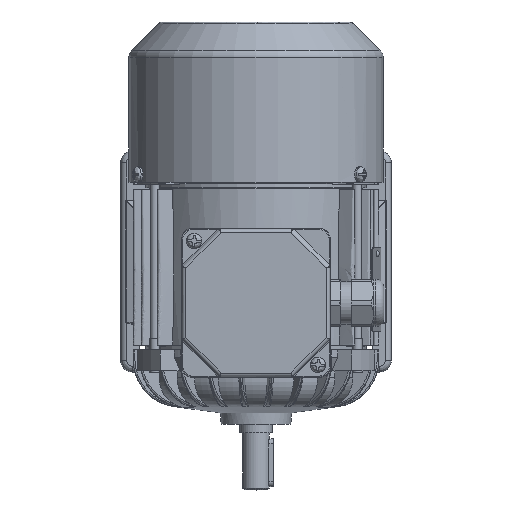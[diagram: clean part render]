
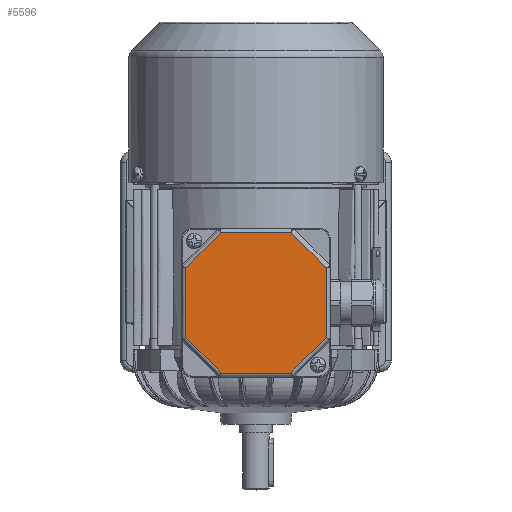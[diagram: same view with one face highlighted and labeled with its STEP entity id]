
A CAD part, top view. The second image highlights one B-rep face of the part: STEP entity #5596.
In plain terms, the highlighted planar face has unit normal (0, 0, 1).
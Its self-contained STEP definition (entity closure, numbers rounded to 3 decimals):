
#5596 = ADVANCED_FACE( '', ( #12681 ), #12682, .T. );
#12681 = FACE_OUTER_BOUND( '', #40515, .T. );
#12682 = PLANE( '', #40516 );
#40515 = EDGE_LOOP( '', ( #94751, #94752, #94753, #94754, #94755, #94756, #94757, #94758 ) );
#40516 = AXIS2_PLACEMENT_3D( '', #94759, #94760, #94761 );
#94751 = ORIENTED_EDGE( '', *, *, #112946, .T. );
#94752 = ORIENTED_EDGE( '', *, *, #115196, .T. );
#94753 = ORIENTED_EDGE( '', *, *, #113803, .T. );
#94754 = ORIENTED_EDGE( '', *, *, #116177, .T. );
#94755 = ORIENTED_EDGE( '', *, *, #111493, .T. );
#94756 = ORIENTED_EDGE( '', *, *, #114422, .T. );
#94757 = ORIENTED_EDGE( '', *, *, #111247, .T. );
#94758 = ORIENTED_EDGE( '', *, *, #116178, .T. );
#94759 = CARTESIAN_POINT( '', ( -39., 39., 12. ) );
#94760 = DIRECTION( '', ( 0., 0., 1. ) );
#94761 = DIRECTION( '', ( 1., 0., 0. ) );
#111247 = EDGE_CURVE( '', #121720, #121721, #121722, .F. );
#111493 = EDGE_CURVE( '', #122174, #122175, #122176, .F. );
#112946 = EDGE_CURVE( '', #124718, #123448, #124719, .F. );
#113803 = EDGE_CURVE( '', #123123, #121496, #126145, .F. );
#114422 = EDGE_CURVE( '', #122175, #121720, #127149, .T. );
#115196 = EDGE_CURVE( '', #123448, #123123, #128377, .T. );
#116177 = EDGE_CURVE( '', #121496, #122174, #129875, .T. );
#116178 = EDGE_CURVE( '', #121721, #124718, #129876, .T. );
#121496 = VERTEX_POINT( '', #136644 );
#121720 = VERTEX_POINT( '', #137558 );
#121721 = VERTEX_POINT( '', #137559 );
#121722 = LINE( '', #137560, #137561 );
#122174 = VERTEX_POINT( '', #140670 );
#122175 = VERTEX_POINT( '', #140671 );
#122176 = LINE( '', #140672, #140673 );
#123123 = VERTEX_POINT( '', #144229 );
#123448 = VERTEX_POINT( '', #145892 );
#124718 = VERTEX_POINT( '', #151364 );
#124719 = LINE( '', #151365, #151366 );
#126145 = LINE( '', #156802, #156803 );
#127149 = LINE( '', #160777, #160778 );
#128377 = LINE( '', #164734, #164735 );
#129875 = LINE( '', #171611, #171612 );
#129876 = LINE( '', #171613, #171614 );
#136644 = CARTESIAN_POINT( '', ( -18.255, 36.825, 12. ) );
#137558 = CARTESIAN_POINT( '', ( -18.255, -36.825, 12. ) );
#137559 = CARTESIAN_POINT( '', ( 18.255, -36.825, 12. ) );
#137560 = CARTESIAN_POINT( '', ( 19.069, -36.825, 12. ) );
#137561 = VECTOR( '', #198892, 1000. );
#140670 = CARTESIAN_POINT( '', ( -36.825, 18.255, 12. ) );
#140671 = CARTESIAN_POINT( '', ( -36.825, -18.255, 12. ) );
#140672 = CARTESIAN_POINT( '', ( -36.825, -19.069, 12. ) );
#140673 = VECTOR( '', #199143, 1000. );
#144229 = CARTESIAN_POINT( '', ( 18.255, 36.825, 12. ) );
#145892 = CARTESIAN_POINT( '', ( 36.825, 18.255, 12. ) );
#151364 = CARTESIAN_POINT( '', ( 36.825, -18.255, 12. ) );
#151365 = CARTESIAN_POINT( '', ( 36.825, 19.069, 12. ) );
#151366 = VECTOR( '', #200714, 1000. );
#156802 = CARTESIAN_POINT( '', ( -19.069, 36.825, 12. ) );
#156803 = VECTOR( '', #201653, 1000. );
#160777 = CARTESIAN_POINT( '', ( -17.679, -37.401, 12. ) );
#160778 = VECTOR( '', #202313, 1000. );
#164734 = CARTESIAN_POINT( '', ( 17.679, 37.401, 12. ) );
#164735 = VECTOR( '', #203269, 1000. );
#171611 = CARTESIAN_POINT( '', ( -37.401, 17.679, 12. ) );
#171612 = VECTOR( '', #204353, 1000. );
#171613 = CARTESIAN_POINT( '', ( 37.401, -17.679, 12. ) );
#171614 = VECTOR( '', #204354, 1000. );
#198892 = DIRECTION( '', ( -1., 0., 0. ) );
#199143 = DIRECTION( '', ( 0., 1., 0. ) );
#200714 = DIRECTION( '', ( 0., -1., 0. ) );
#201653 = DIRECTION( '', ( 1., 0., 0. ) );
#202313 = DIRECTION( '', ( 0.707, -0.707, 0. ) );
#203269 = DIRECTION( '', ( -0.707, 0.707, 0. ) );
#204353 = DIRECTION( '', ( -0.707, -0.707, 0. ) );
#204354 = DIRECTION( '', ( 0.707, 0.707, 0. ) );
